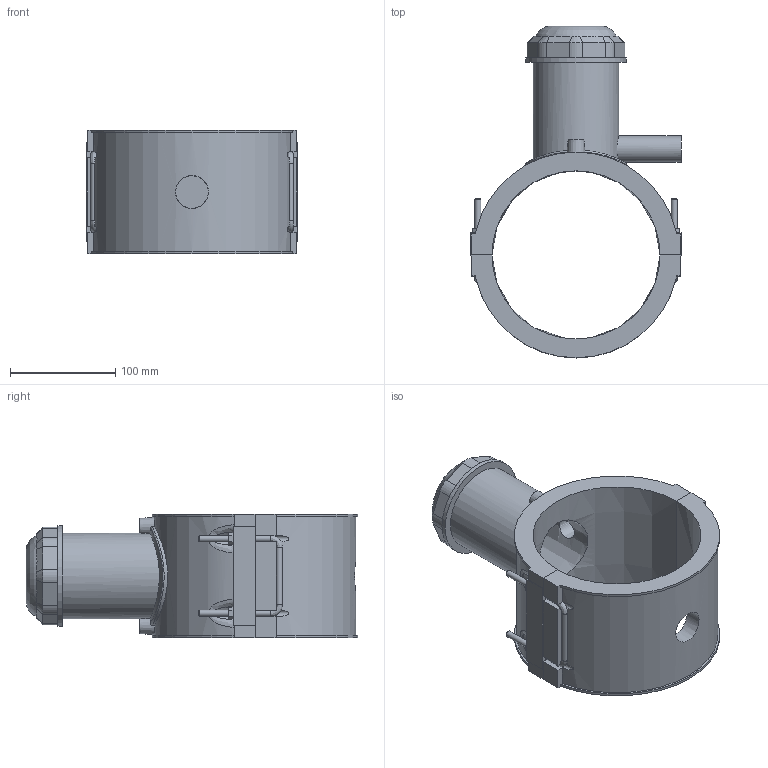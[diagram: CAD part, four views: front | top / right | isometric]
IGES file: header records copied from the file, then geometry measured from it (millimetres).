
Global section: file name: 496304160025.ipt; native system: Autodesk Inventor 2015; preprocessor: unknown; author: KIM; date: 20190124.131016; units: millimetre
Bounding box: 201 x 315.92 x 118 mm (x, y, z)
Volume: 1390044.4 mm3; surface area: 238265.6 mm2
Topology: 1 solids, 1 shells, 207 faces, 551 edges, 360 vertices
Faces by surface type: plane 127, cylinder 36, revolution 24, cone 14, bspline 6
Full cylindrical faces by diameter (mm): 4 x2, 6 x8, 25 x1, 81.6 x1, 96 x1
